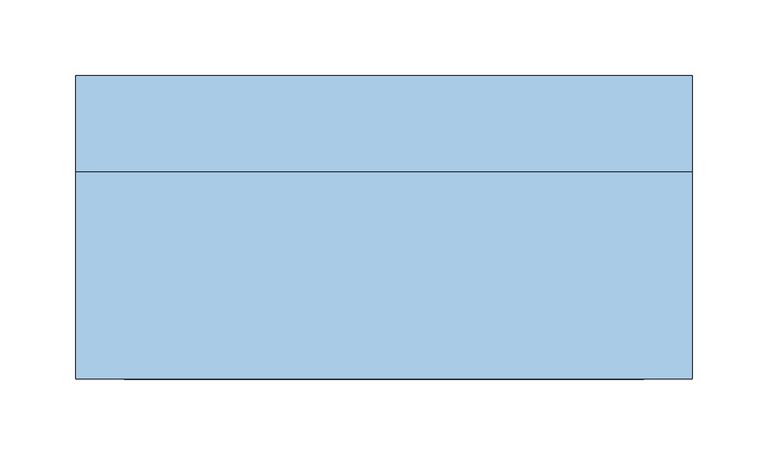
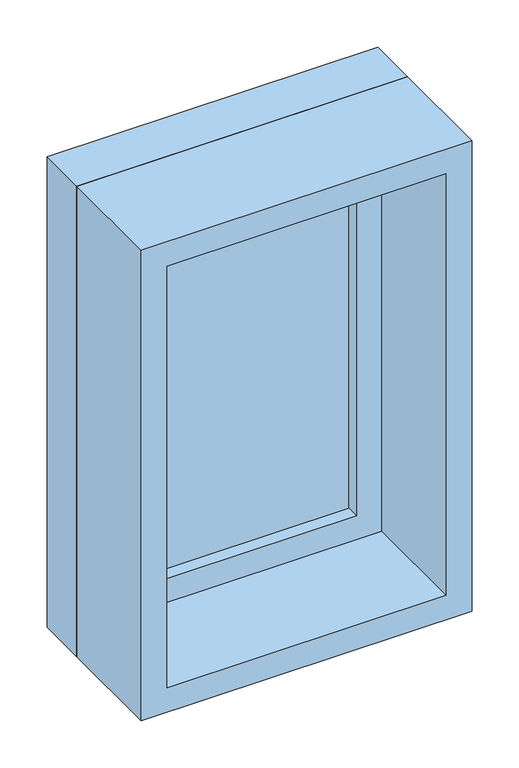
"""IFC4 building model written with IfcOpenShell, lengths in millimetres: window geometry, Фиксированные : 0406 x 0610 мм."""

from ifc_helpers import new_model, si_unit, frame, origin, place, context, project, spatial, polyline, outline, extrude, source, transform, mapped, element, save


def window_8205b201(model_context):
    return source(origin(), model_context, "Body", "SweptSolid", [
        extrude(outline(polyline([(-140.0, 78.0), (140.0, 78.0), (140.0, 66.0), (-140.0, 66.0), (-140.0, 78.0)])), frame((0.0, 0.0, 978.0), z_axis=(0.0, 0.0, 1.0), x_axis=(1.0, 0.0, 0.0)), (0.0, 0.0, 1.0), 484.0),
        extrude(outline(polyline([(1506.0, -184.0), (934.0, -184.0), (934.0, 184.0), (1506.0, 184.0), (1506.0, -184.0)]), holes=[polyline([(1462.0, -140.0), (1462.0, 140.0), (978.0, 140.0), (978.0, -140.0), (1462.0, -140.0)])]), frame((0.0, 50.0, 0.0), z_axis=(0.0, 1.0, 0.0), x_axis=(0.0, 0.0, 1.0)), (0.0, 0.0, 1.0), 44.0),
        extrude(outline(polyline([(1525.0, -203.0), (915.0, -203.0), (915.0, 203.0), (1525.0, 203.0), (1525.0, -203.0)]), holes=[polyline([(1506.0, -184.0), (1506.0, 184.0), (934.0, 184.0), (934.0, -184.0), (1506.0, -184.0)])]), frame((0.0, 50.0, 0.0), z_axis=(0.0, 1.0, 0.0), x_axis=(0.0, 0.0, 1.0)), (0.0, 0.0, 1.0), 63.0),
        extrude(outline(polyline([(1525.0, -203.0), (915.0, -203.0), (915.0, 203.0), (1525.0, 203.0), (1525.0, -203.0)]), holes=[polyline([(1493.0, -171.0), (1493.0, 171.0), (947.0, 171.0), (947.0, -171.0), (1493.0, -171.0)])]), frame((0.0, -87.0, 0.0), z_axis=(0.0, 1.0, 0.0), x_axis=(0.0, 0.0, 1.0)), (0.0, 0.0, 1.0), 137.0),
    ])


if __name__ == "__main__":
    model = new_model("IFC4")
    model_context = context("Model", 3, world=origin())
    ifc_project = project(units=[si_unit("LENGTHUNIT", "METRE", prefix="MILLI")], contexts=[model_context])
    site = spatial("IfcSite", under=ifc_project)
    building = spatial("IfcBuilding", under=site)
    placement = place(None, origin())
    window_shape = window_8205b201(model_context)
    element("IfcWindow", 1, ObjectType="Фиксированные : 0406 x 0610 мм", at=placement, inside=building, context=model_context, shape_type="MappedRepresentation", body=[
        mapped(window_shape, transform((0.0, 0.0, 0.0), x_axis=(1.0, 0.0, 0.0), y_axis=(0.0, 1.0, 0.0), z_axis=(0.0, 0.0, 1.0))),
    ])
    save(model, "model.ifc")
